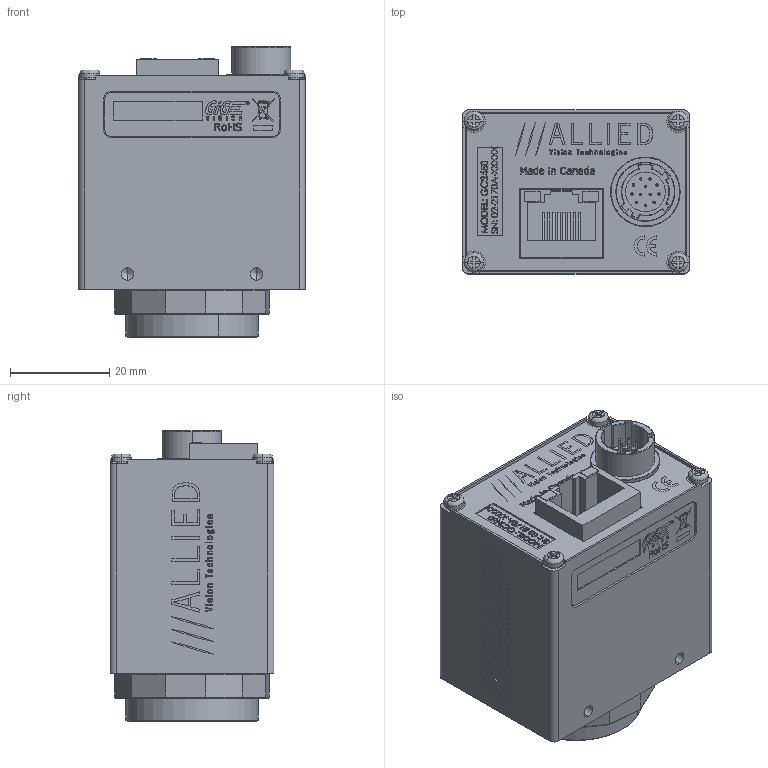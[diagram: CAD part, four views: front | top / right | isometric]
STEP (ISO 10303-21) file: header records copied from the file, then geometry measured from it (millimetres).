
FILE_DESCRIPTION (( 'STEP AP214' ), '1' );
FILE_NAME ('GC2450.STEP', '2013-07-31T18:21:50', ( '' ), ( '' ), 'SwSTEP 2.0', 'SolidWorks 2013', '' );
FILE_SCHEMA (( 'AUTOMOTIVE_DESIGN' ));
Length unit declared in the file: millimetre
Products named in the file (20): GC2450; 260034-HIROSE HR10A-10R-12PB; 200047A-A GC INTERFACE PCB ASSY; 260033-AMPHENOL RJHS-3381; 110042C GC-CCD FRONT_Finished with logo; 740032B-GC MAIN LABEL; 200077A-PCB ASSY GC2450  SENSOR MONO; 220100-SONY ICX625ALA; SONY ICX625 BODY; SONY ICX625 WINDOW; 110045B-EC-CCD DUST SHIELD GASKET; 740123A-GC MAC LABEL; 140017-SCREW PAN M2x4 SS; 740082A-GC2450 LABEL PRINT; 140013-washer spring lock M2; 140023-SCREW SKT CAP M2x10 SS; 110003AC-CV CMOUNT RING; 110043A GC BACK PLATE; 110043A GC BACK PLATE - WO HW; 110031A-B EC-CCD LOCKING RING
Assembly tree (24 placements, depth 4):
  GC2450
    110031A-B EC-CCD LOCKING RING
    110043A GC BACK PLATE
      110043A GC BACK PLATE - WO HW
    110003AC-CV CMOUNT RING
    140023-SCREW SKT CAP M2x10 SS  x2
    140013-washer spring lock M2  x2
    740082A-GC2450 LABEL PRINT
    140017-SCREW PAN M2x4 SS  x4
    740123A-GC MAC LABEL
    110045B-EC-CCD DUST SHIELD GASKET
    200077A-PCB ASSY GC2450  SENSOR MONO
      220100-SONY ICX625ALA
        SONY ICX625 WINDOW
        SONY ICX625 BODY
    740032B-GC MAIN LABEL
    200047A-A GC INTERFACE PCB ASSY
      260033-AMPHENOL RJHS-3381
    260034-HIROSE HR10A-10R-12PB
    110042C GC-CCD FRONT_Finished with logo
Bounding box: 45.72 x 33.02 x 58.54 mm (x, y, z)
Volume: 22195.5 mm3; surface area: 31766.1 mm2
Topology: 20 solids, 20 shells, 3342 faces, 8768 edges, 5670 vertices
Faces by surface type: plane 1964, bspline 903, cylinder 283, cone 192
Entity records: 167699 total; most frequent: CARTESIAN_POINT 57507, ORIENTED_EDGE 16848, DIRECTION 12120, EDGE_CURVE 8424, LINE 5916, VECTOR 5916, VERTEX_POINT 5500, EDGE_LOOP 3564
